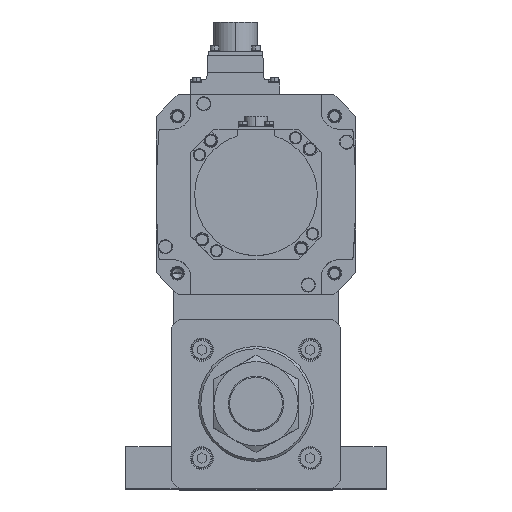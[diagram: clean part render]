
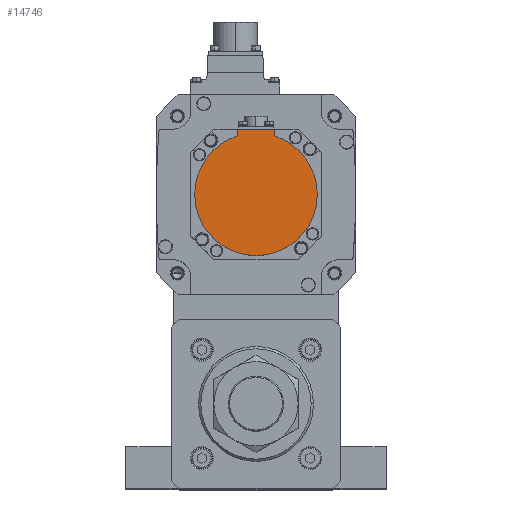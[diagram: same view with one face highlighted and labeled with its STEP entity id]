
A CAD part, top view. The second image highlights one B-rep face of the part: STEP entity #14746.
In plain terms, the highlighted planar face has unit normal (0, 0, 1) as drawn and (0, 0, -1) by its records, which use the part's own axes.
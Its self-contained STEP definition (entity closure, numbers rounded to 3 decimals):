
#851 = AXIS2_PLACEMENT_3D ( 'NONE', #26216, #15406, #17750 ) ;
#1871 = ORIENTED_EDGE ( 'NONE', *, *, #26272, .T. ) ;
#2172 = EDGE_LOOP ( 'NONE', ( #3011, #2547, #20032, #30158, #9305, #1871 ) ) ;
#2463 = DIRECTION ( 'NONE',  ( -1., 0., 0. ) ) ;
#2547 = ORIENTED_EDGE ( 'NONE', *, *, #29442, .F. ) ;
#2697 = CARTESIAN_POINT ( 'NONE',  ( 0., -42.5, -132.5 ) ) ;
#3011 = ORIENTED_EDGE ( 'NONE', *, *, #31777, .T. ) ;
#4746 = CARTESIAN_POINT ( 'NONE',  ( -40., 0., -132.5 ) ) ;
#5204 = CARTESIAN_POINT ( 'NONE',  ( -12., -40.329, -132.5 ) ) ;
#6180 = CARTESIAN_POINT ( 'NONE',  ( 0., 0., -132.5 ) ) ;
#6418 = CARTESIAN_POINT ( 'NONE',  ( 0., -1.249, -132.5 ) ) ;
#7460 = DIRECTION ( 'NONE',  ( 1., 0., 0. ) ) ;
#8226 = CARTESIAN_POINT ( 'NONE',  ( 12., -42.5, -132.5 ) ) ;
#9016 = VERTEX_POINT ( 'NONE', #11473 ) ;
#9305 = ORIENTED_EDGE ( 'NONE', *, *, #16477, .F. ) ;
#9505 = CIRCLE ( 'NONE', #16052, 40. ) ;
#9783 = DIRECTION ( 'NONE',  ( 0., 0., 1. ) ) ;
#10511 = CIRCLE ( 'NONE', #33756, 40. ) ;
#11473 = CARTESIAN_POINT ( 'NONE',  ( 40., 0., -132.5 ) ) ;
#12058 = DIRECTION ( 'NONE',  ( 0., 0., 1. ) ) ;
#14504 = CARTESIAN_POINT ( 'NONE',  ( 0., 0., -132.5 ) ) ;
#14746 = ADVANCED_FACE ( 'NONE', ( #27355 ), #25102, .F. ) ;
#15267 = LINE ( 'NONE', #5204, #25792 ) ;
#15406 = DIRECTION ( 'NONE',  ( 0., 0., 1. ) ) ;
#15780 = CARTESIAN_POINT ( 'NONE',  ( 12., -38.158, -132.5 ) ) ;
#16052 = AXIS2_PLACEMENT_3D ( 'NONE', #14504, #9783, #7460 ) ;
#16477 = EDGE_CURVE ( 'NONE', #26914, #20775, #34359, .T. ) ;
#17750 = DIRECTION ( 'NONE',  ( 1., 0., 0. ) ) ;
#20032 = ORIENTED_EDGE ( 'NONE', *, *, #28548, .F. ) ;
#20775 = VERTEX_POINT ( 'NONE', #15780 ) ;
#20963 = CIRCLE ( 'NONE', #851, 40. ) ;
#22631 = DIRECTION ( 'NONE',  ( 0., 1., 0. ) ) ;
#23009 = AXIS2_PLACEMENT_3D ( 'NONE', #6418, #12058, #30868 ) ;
#23827 = VERTEX_POINT ( 'NONE', #4746 ) ;
#24030 = DIRECTION ( 'NONE',  ( 0., 1., 0. ) ) ;
#24164 = EDGE_CURVE ( 'NONE', #20775, #9016, #9505, .T. ) ;
#24754 = DIRECTION ( 'NONE',  ( 0., 0., 1. ) ) ;
#24864 = DIRECTION ( 'NONE',  ( 1., 0., 0. ) ) ;
#25102 = PLANE ( 'NONE',  #23009 ) ;
#25222 = CARTESIAN_POINT ( 'NONE',  ( 12., -1.249, -132.5 ) ) ;
#25792 = VECTOR ( 'NONE', #24030, 1000. ) ;
#26176 = VECTOR ( 'NONE', #2463, 1000. ) ;
#26216 = CARTESIAN_POINT ( 'NONE',  ( 0., 0., -132.5 ) ) ;
#26272 = EDGE_CURVE ( 'NONE', #26914, #30904, #33353, .T. ) ;
#26914 = VERTEX_POINT ( 'NONE', #8226 ) ;
#27355 = FACE_OUTER_BOUND ( 'NONE', #2172, .T. ) ;
#28548 = EDGE_CURVE ( 'NONE', #9016, #23827, #10511, .T. ) ;
#29442 = EDGE_CURVE ( 'NONE', #23827, #31704, #20963, .T. ) ;
#30158 = ORIENTED_EDGE ( 'NONE', *, *, #24164, .F. ) ;
#30868 = DIRECTION ( 'NONE',  ( 1., 0., 0. ) ) ;
#30904 = VERTEX_POINT ( 'NONE', #34789 ) ;
#30993 = VECTOR ( 'NONE', #22631, 1000. ) ;
#31704 = VERTEX_POINT ( 'NONE', #31778 ) ;
#31777 = EDGE_CURVE ( 'NONE', #30904, #31704, #15267, .T. ) ;
#31778 = CARTESIAN_POINT ( 'NONE',  ( -12., -38.158, -132.5 ) ) ;
#33353 = LINE ( 'NONE', #2697, #26176 ) ;
#33756 = AXIS2_PLACEMENT_3D ( 'NONE', #6180, #24754, #24864 ) ;
#34359 = LINE ( 'NONE', #25222, #30993 ) ;
#34789 = CARTESIAN_POINT ( 'NONE',  ( -12., -42.5, -132.5 ) ) ;
